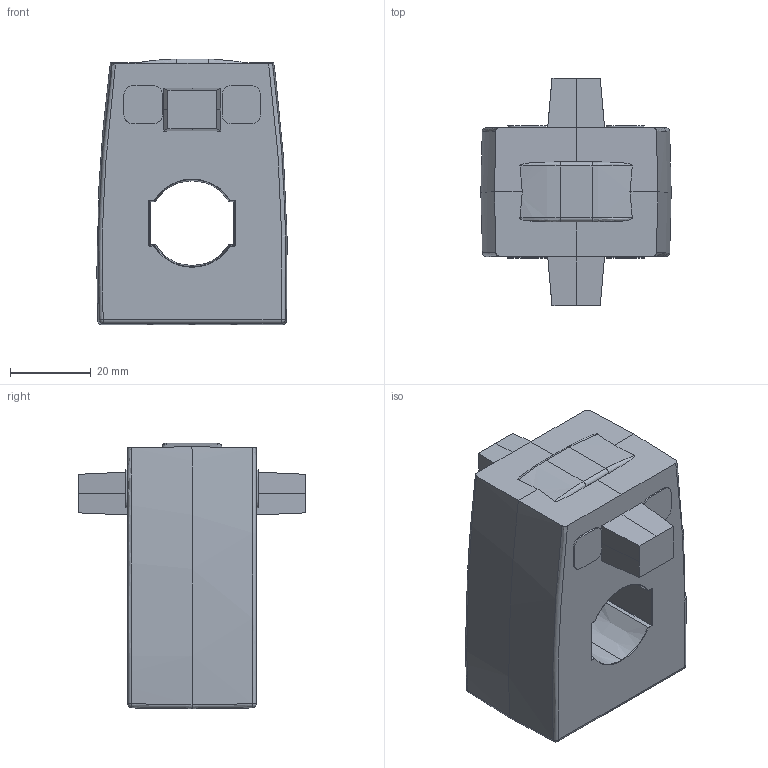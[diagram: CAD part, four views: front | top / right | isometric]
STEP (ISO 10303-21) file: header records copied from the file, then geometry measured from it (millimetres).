
FILE_DESCRIPTION(/* description */ (''),/* implementation_level */ '2;1');
FILE_NAME(/* name */ 'ENT.A 20 MN.stp',/* time_stamp */ '2021-03-18T11:11:55+03:00',/* author */ (''),/* organization */ (''),/* preprocessor_version */ 'ST-DEVELOPER v16',/* originating_system */ 'SIEMENS PLM Software NX 11.0',/* authorisation */ '');
FILE_SCHEMA (('AUTOMOTIVE_DESIGN { 1 0 10303 214 3 1 1 1 }'));
Length unit declared in the file: millimetre
Products named in the file (1): ENT.A 20 MN
Bounding box: 47.15 x 56.33 x 65.82 mm (x, y, z)
Volume: 84929.2 mm3; surface area: 15213.5 mm2
Topology: 1 solids, 3 shells, 196 faces, 555 edges, 366 vertices
Faces by surface type: plane 104, cylinder 42, bspline 20, cone 12, torus 10, revolution 4, sphere 4
Entity records: 7008 total; most frequent: CARTESIAN_POINT 2275, ORIENTED_EDGE 1098, DIRECTION 814, EDGE_CURVE 549, VERTEX_POINT 366, LINE 276, VECTOR 276, AXIS2_PLACEMENT_3D 267
